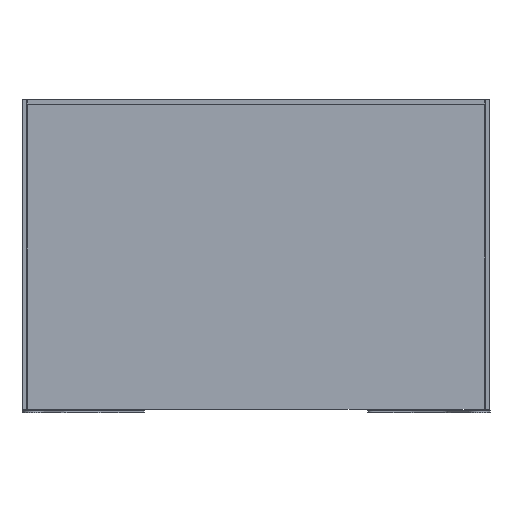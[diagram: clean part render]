
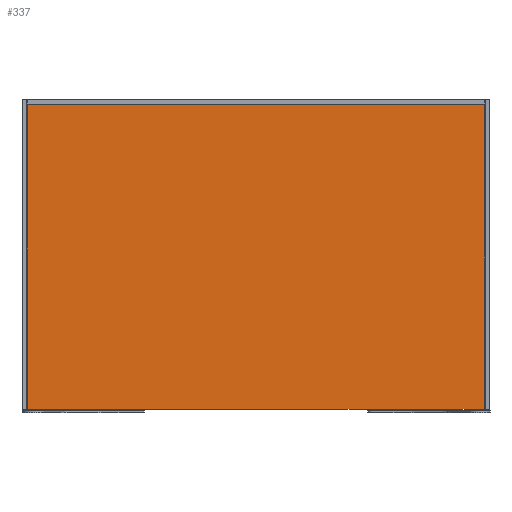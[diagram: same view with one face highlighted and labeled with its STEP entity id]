
A CAD part, front view. The second image highlights one B-rep face of the part: STEP entity #337.
In plain terms, the highlighted planar face has unit normal (0, -1, 0).
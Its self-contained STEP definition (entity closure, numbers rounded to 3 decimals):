
#337=ADVANCED_FACE('',(#433),#1481,.T.);
#433=FACE_OUTER_BOUND('',#529,.T.);
#529=EDGE_LOOP('',(#668,#669));
#668=ORIENTED_EDGE('',*,*,#1070,.T.);
#669=ORIENTED_EDGE('',*,*,#1073,.T.);
#1070=EDGE_CURVE('',#1335,#1337,#1274,.T.);
#1073=EDGE_CURVE('',#1337,#1335,#1277,.T.);
#1274=(
BOUNDED_CURVE()
B_SPLINE_CURVE(2,(#2179,#2180,#2181,#2182,#2183,#2184,#2185,#2186,#2187),
 .UNSPECIFIED.,.F.,.F.)
B_SPLINE_CURVE_WITH_KNOTS((3,2,2,2,3),(5983.145,5986.287,
7778.287,7781.428,8973.43),.UNSPECIFIED.)
CURVE()
GEOMETRIC_REPRESENTATION_ITEM()
RATIONAL_B_SPLINE_CURVE((1.,0.707,1.,1.,1.,0.707,
1.,1.,1.))
REPRESENTATION_ITEM('')
);
#1277=(
BOUNDED_CURVE()
B_SPLINE_CURVE(2,(#2199,#2200,#2201,#2202,#2203,#2204,#2205,#2206,#2207),
 .UNSPECIFIED.,.F.,.F.)
B_SPLINE_CURVE_WITH_KNOTS((3,2,2,2,3),(8973.43,8976.572,
10768.572,10771.714,11963.715),.UNSPECIFIED.)
CURVE()
GEOMETRIC_REPRESENTATION_ITEM()
RATIONAL_B_SPLINE_CURVE((1.,0.707,1.,1.,1.,0.707,
1.,1.,1.))
REPRESENTATION_ITEM('')
);
#1335=VERTEX_POINT('',#2165);
#1337=VERTEX_POINT('',#2167);
#1481=PLANE('',#1609);
#1609=AXIS2_PLACEMENT_3D('',#2127,#1784,$);
#1784=DIRECTION('',(0.,-1.,0.));
#2127=CARTESIAN_POINT('',(-42.96,367.,0.045));
#2165=CARTESIAN_POINT('',(-25.,367.,14.005));
#2167=CARTESIAN_POINT('',(1771.,367.,1206.007));
#2179=CARTESIAN_POINT('',(-25.,367.,14.005));
#2180=CARTESIAN_POINT('',(-25.,367.,12.005));
#2181=CARTESIAN_POINT('',(-23.,367.,12.005));
#2182=CARTESIAN_POINT('',(873.,367.,12.005));
#2183=CARTESIAN_POINT('',(1769.,367.,12.005));
#2184=CARTESIAN_POINT('',(1771.,367.,12.005));
#2185=CARTESIAN_POINT('',(1771.,367.,14.005));
#2186=CARTESIAN_POINT('',(1771.,367.,610.006));
#2187=CARTESIAN_POINT('',(1771.,367.,1206.007));
#2199=CARTESIAN_POINT('',(1771.,367.,1206.007));
#2200=CARTESIAN_POINT('',(1771.,367.,1208.007));
#2201=CARTESIAN_POINT('',(1769.,367.,1208.007));
#2202=CARTESIAN_POINT('',(873.,367.,1208.007));
#2203=CARTESIAN_POINT('',(-23.,367.,1208.007));
#2204=CARTESIAN_POINT('',(-25.,367.,1208.007));
#2205=CARTESIAN_POINT('',(-25.,367.,1206.007));
#2206=CARTESIAN_POINT('',(-25.,367.,610.006));
#2207=CARTESIAN_POINT('',(-25.,367.,14.005));
